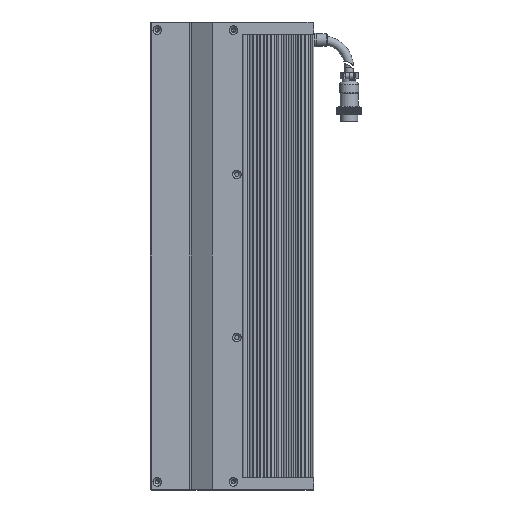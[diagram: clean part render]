
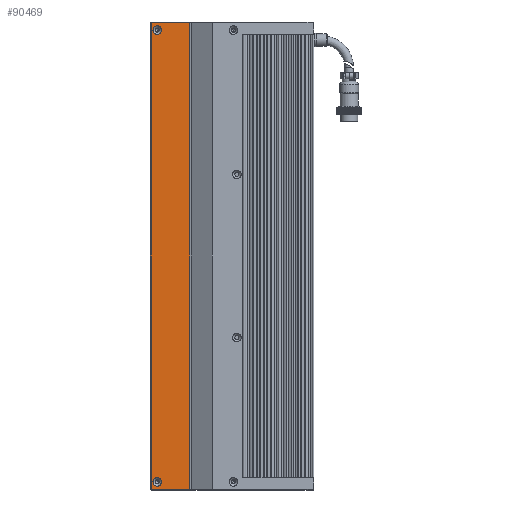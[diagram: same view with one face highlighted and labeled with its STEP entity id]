
A CAD part, left-side view. The second image highlights one B-rep face of the part: STEP entity #90469.
In plain terms, the highlighted planar face has unit normal (-1, 0, 0).
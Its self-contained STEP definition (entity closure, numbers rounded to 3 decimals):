
#3524 = FACE_BOUND ( 'NONE', #39602, .T. ) ;
#4285 = CARTESIAN_POINT ( 'NONE',  ( -15.462, 21.439, 463. ) ) ;
#5486 = LINE ( 'NONE', #61212, #121478 ) ;
#11247 = VERTEX_POINT ( 'NONE', #24746 ) ;
#12187 = CARTESIAN_POINT ( 'NONE',  ( -15.462, 16.939, 457.5 ) ) ;
#15116 = CARTESIAN_POINT ( 'NONE',  ( -15.462, -6.987, 461.5 ) ) ;
#24746 = CARTESIAN_POINT ( 'NONE',  ( -15.462, 21.439, 120. ) ) ;
#25791 = LINE ( 'NONE', #15116, #37891 ) ;
#26437 = VERTEX_POINT ( 'NONE', #45073 ) ;
#26813 = CARTESIAN_POINT ( 'NONE',  ( -15.462, -7.561, 463. ) ) ;
#31003 = LINE ( 'NONE', #81607, #36997 ) ;
#32308 = EDGE_CURVE ( 'NONE', #49166, #11247, #31003, .T. ) ;
#32933 = DIRECTION ( 'NONE',  ( 0., 0., 1. ) ) ;
#33690 = DIRECTION ( 'NONE',  ( 0., 1., 0. ) ) ;
#35277 = DIRECTION ( 'NONE',  ( 0., -1., 0. ) ) ;
#36997 = VECTOR ( 'NONE', #33690, 1000. ) ;
#37599 = ORIENTED_EDGE ( 'NONE', *, *, #77703, .F. ) ;
#37891 = VECTOR ( 'NONE', #91317, 1000. ) ;
#38324 = CARTESIAN_POINT ( 'NONE',  ( -15.462, -6.987, 120. ) ) ;
#39602 = EDGE_LOOP ( 'NONE', ( #91025 ) ) ;
#42591 = AXIS2_PLACEMENT_3D ( 'NONE', #92724, #63759, #111649 ) ;
#43473 = ORIENTED_EDGE ( 'NONE', *, *, #56685, .F. ) ;
#45073 = CARTESIAN_POINT ( 'NONE',  ( -15.462, -6.987, 463. ) ) ;
#47655 = CARTESIAN_POINT ( 'NONE',  ( -15.462, 13.789, 457.5 ) ) ;
#48015 = VECTOR ( 'NONE', #35277, 1000. ) ;
#49166 = VERTEX_POINT ( 'NONE', #38324 ) ;
#49412 = AXIS2_PLACEMENT_3D ( 'NONE', #86575, #105906, #114789 ) ;
#51330 = ORIENTED_EDGE ( 'NONE', *, *, #32308, .F. ) ;
#54481 = CARTESIAN_POINT ( 'NONE',  ( -15.462, 16.939, 128.65 ) ) ;
#56685 = EDGE_CURVE ( 'NONE', #11247, #92694, #5486, .T. ) ;
#57131 = LINE ( 'NONE', #26813, #48015 ) ;
#58494 = PLANE ( 'NONE',  #49412 ) ;
#59557 = EDGE_CURVE ( 'NONE', #92694, #26437, #57131, .T. ) ;
#60708 = DIRECTION ( 'NONE',  ( 0., -1., 0. ) ) ;
#61212 = CARTESIAN_POINT ( 'NONE',  ( -15.462, 21.439, 461.5 ) ) ;
#63759 = DIRECTION ( 'NONE',  ( -1., 0., 0. ) ) ;
#68717 = EDGE_CURVE ( 'NONE', #89814, #89814, #75223, .T. ) ;
#75223 = CIRCLE ( 'NONE', #42591, 3.15 ) ;
#75801 = FACE_BOUND ( 'NONE', #110328, .T. ) ;
#76188 = ORIENTED_EDGE ( 'NONE', *, *, #59557, .F. ) ;
#77703 = EDGE_CURVE ( 'NONE', #26437, #49166, #25791, .T. ) ;
#79515 = DIRECTION ( 'NONE',  ( -1., 0., 0. ) ) ;
#81607 = CARTESIAN_POINT ( 'NONE',  ( -15.462, -7.561, 120. ) ) ;
#82275 = CIRCLE ( 'NONE', #108605, 3.15 ) ;
#85936 = VERTEX_POINT ( 'NONE', #47655 ) ;
#86575 = CARTESIAN_POINT ( 'NONE',  ( -15.462, -7.561, 461.5 ) ) ;
#89814 = VERTEX_POINT ( 'NONE', #54481 ) ;
#90469 = ADVANCED_FACE ( 'NONE', ( #75801, #3524, #98374 ), #58494, .F. ) ;
#91025 = ORIENTED_EDGE ( 'NONE', *, *, #116417, .F. ) ;
#91317 = DIRECTION ( 'NONE',  ( 0., 0., -1. ) ) ;
#92694 = VERTEX_POINT ( 'NONE', #4285 ) ;
#92724 = CARTESIAN_POINT ( 'NONE',  ( -15.462, 16.939, 125.5 ) ) ;
#98374 = FACE_OUTER_BOUND ( 'NONE', #104258, .T. ) ;
#104258 = EDGE_LOOP ( 'NONE', ( #43473, #51330, #37599, #76188 ) ) ;
#105906 = DIRECTION ( 'NONE',  ( 1., 0., 0. ) ) ;
#108605 = AXIS2_PLACEMENT_3D ( 'NONE', #12187, #79515, #60708 ) ;
#110328 = EDGE_LOOP ( 'NONE', ( #120982 ) ) ;
#111649 = DIRECTION ( 'NONE',  ( 0., 0., 1. ) ) ;
#114789 = DIRECTION ( 'NONE',  ( 0., 0., -1. ) ) ;
#116417 = EDGE_CURVE ( 'NONE', #85936, #85936, #82275, .T. ) ;
#120982 = ORIENTED_EDGE ( 'NONE', *, *, #68717, .F. ) ;
#121478 = VECTOR ( 'NONE', #32933, 1000. ) ;
